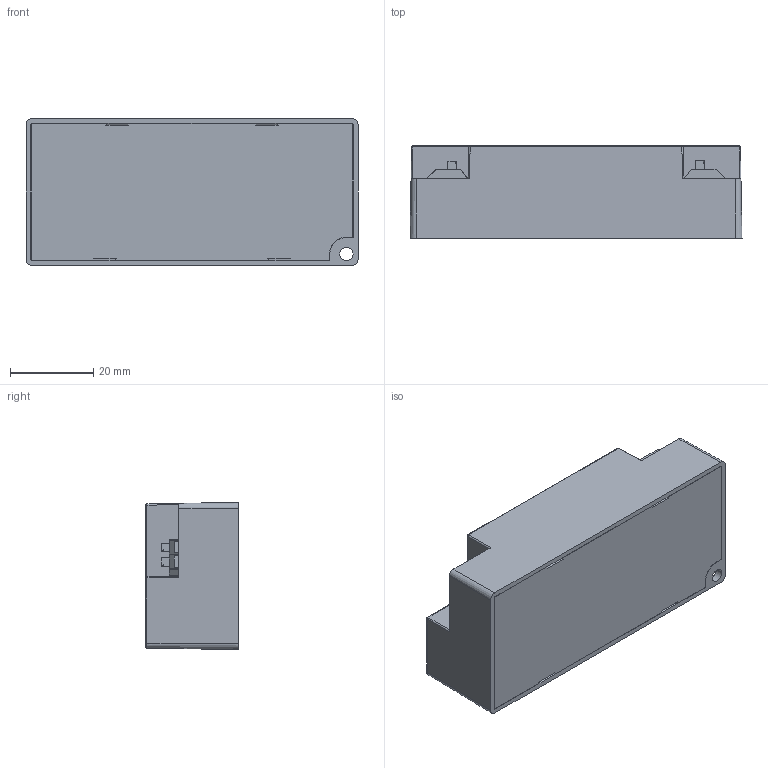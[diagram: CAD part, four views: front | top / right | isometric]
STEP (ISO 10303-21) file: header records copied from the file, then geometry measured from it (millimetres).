
FILE_DESCRIPTION((''),'2;1');
FILE_NAME('KT-160_ASM','2025-12-01T14:58:54',('Administrator'),(''),'CREO PARAMETRIC BY PTC INC, 2022484','CREO PARAMETRIC BY PTC INC, 2022484','');
FILE_SCHEMA(('CONFIG_CONTROL_DESIGN','SHAPE_APPEARANCE_LAYERS_GROUPS'));
Products named in the file (6): KT-160_SG; KT-160_XG; KT-160PCBA; BM_2; WAFO_250_2P; KT-160_ASM
Assembly tree (6 placements, depth 2):
  KT-160_ASM
    KT-160_SG
    KT-160_XG
    KT-160PCBA
    BM_2
    WAFO_250_2P  x2
Bounding box: 80 x 22.3 x 35.5 mm (x, y, z)
Volume: 17335.8 mm3; surface area: 29645.2 mm2
Topology: 10 solids, 10 shells, 3219 faces, 8967 edges, 5940 vertices
Faces by surface type: plane 3079, extrusion 62, cylinder 48, cone 16, sphere 6, torus 6, bspline 2
Entity records: 144915 total; most frequent: CARTESIAN_POINT 18526, ORIENTED_EDGE 17502, DIRECTION 14932, PRESENTATION_STYLE_ASSIGNMENT 11351, STYLED_ITEM 11351, EDGE_CURVE 8751, VECTOR 8558, LINE 8496
